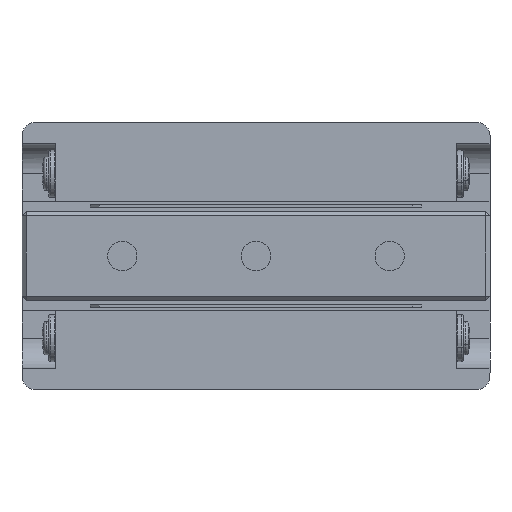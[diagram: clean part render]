
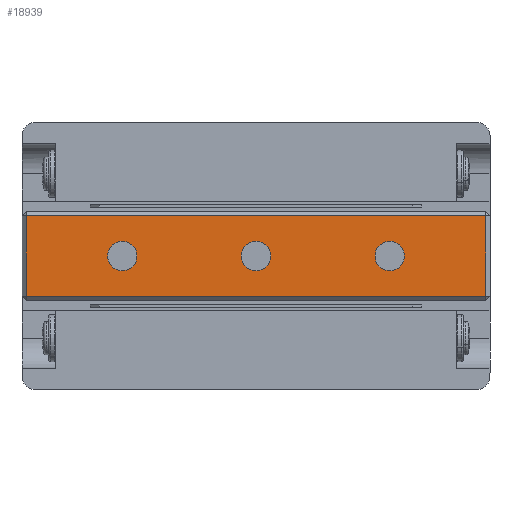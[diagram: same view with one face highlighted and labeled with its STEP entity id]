
A CAD part, front view. The second image highlights one B-rep face of the part: STEP entity #18939.
In plain terms, the highlighted planar face has unit normal (0, -1, 0).
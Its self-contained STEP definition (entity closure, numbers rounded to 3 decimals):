
#48 = ORIENTED_EDGE ( 'NONE', *, *, #11507, .T. ) ;
#113 = CIRCLE ( 'NONE', #20176, 1.1 ) ;
#362 = DIRECTION ( 'NONE',  ( 0., 0., 1. ) ) ;
#1007 = CARTESIAN_POINT ( 'NONE',  ( -11.192, 0.675, -0.001 ) ) ;
#1724 = FACE_BOUND ( 'NONE', #12717, .T. ) ;
#2073 = CIRCLE ( 'NONE', #23490, 1.1 ) ;
#2269 = EDGE_LOOP ( 'NONE', ( #15118, #18922 ) ) ;
#2406 = EDGE_CURVE ( 'NONE', #23046, #10715, #113, .T. ) ;
#2816 = CIRCLE ( 'NONE', #13578, 1.1 ) ;
#3169 = DIRECTION ( 'NONE',  ( 0., 0., 1. ) ) ;
#3342 = EDGE_CURVE ( 'NONE', #6639, #14536, #2073, .T. ) ;
#3347 = DIRECTION ( 'NONE',  ( 0., 0., 1. ) ) ;
#4466 = CARTESIAN_POINT ( 'NONE',  ( 16.008, 0.675, -3.001 ) ) ;
#4762 = CARTESIAN_POINT ( 'NONE',  ( -11.192, 0.675, 1.099 ) ) ;
#4875 = CARTESIAN_POINT ( 'NONE',  ( -11.192, 0.675, -0.001 ) ) ;
#5379 = DIRECTION ( 'NONE',  ( 1., 0., 0. ) ) ;
#5468 = PLANE ( 'NONE',  #19445 ) ;
#5494 = EDGE_CURVE ( 'NONE', #9361, #25709, #12134, .T. ) ;
#6639 = VERTEX_POINT ( 'NONE', #27167 ) ;
#6945 = DIRECTION ( 'NONE',  ( 0., 1., 0. ) ) ;
#7040 = DIRECTION ( 'NONE',  ( 0., 0., 1. ) ) ;
#7350 = DIRECTION ( 'NONE',  ( 0., 1., 0. ) ) ;
#7368 = VERTEX_POINT ( 'NONE', #4762 ) ;
#7399 = FACE_BOUND ( 'NONE', #2269, .T. ) ;
#7532 = CARTESIAN_POINT ( 'NONE',  ( -18.692, 0.675, -3.001 ) ) ;
#7613 = CARTESIAN_POINT ( 'NONE',  ( -18.692, 0.675, 3.299 ) ) ;
#7625 = CARTESIAN_POINT ( 'NONE',  ( 8.808, 0.675, -0.001 ) ) ;
#8482 = EDGE_CURVE ( 'NONE', #7368, #26995, #14710, .T. ) ;
#9032 = ORIENTED_EDGE ( 'NONE', *, *, #21000, .T. ) ;
#9112 = CARTESIAN_POINT ( 'NONE',  ( 8.808, 0.675, -1.101 ) ) ;
#9215 = VERTEX_POINT ( 'NONE', #10290 ) ;
#9291 = ORIENTED_EDGE ( 'NONE', *, *, #27838, .T. ) ;
#9361 = VERTEX_POINT ( 'NONE', #4466 ) ;
#9429 = ORIENTED_EDGE ( 'NONE', *, *, #17873, .T. ) ;
#10290 = CARTESIAN_POINT ( 'NONE',  ( -18.392, 0.675, -3.001 ) ) ;
#10612 = CARTESIAN_POINT ( 'NONE',  ( -1.192, 0.675, 1.099 ) ) ;
#10715 = VERTEX_POINT ( 'NONE', #16293 ) ;
#11507 = EDGE_CURVE ( 'NONE', #26995, #7368, #2816, .T. ) ;
#11956 = DIRECTION ( 'NONE',  ( 0., 0., 1. ) ) ;
#11958 = VECTOR ( 'NONE', #20852, 1000. ) ;
#12112 = CARTESIAN_POINT ( 'NONE',  ( -18.392, 0.675, 3.299 ) ) ;
#12134 = LINE ( 'NONE', #15394, #23692 ) ;
#12357 = VECTOR ( 'NONE', #5379, 1000. ) ;
#12717 = EDGE_LOOP ( 'NONE', ( #25177, #48 ) ) ;
#13125 = FACE_BOUND ( 'NONE', #17834, .T. ) ;
#13182 = ORIENTED_EDGE ( 'NONE', *, *, #2406, .T. ) ;
#13289 = AXIS2_PLACEMENT_3D ( 'NONE', #20331, #7350, #22510 ) ;
#13578 = AXIS2_PLACEMENT_3D ( 'NONE', #4875, #20008, #7040 ) ;
#14085 = CARTESIAN_POINT ( 'NONE',  ( -18.392, 0.675, 2.999 ) ) ;
#14536 = VERTEX_POINT ( 'NONE', #10612 ) ;
#14710 = CIRCLE ( 'NONE', #17521, 1.1 ) ;
#14831 = EDGE_CURVE ( 'NONE', #20525, #9215, #17732, .T. ) ;
#14938 = CIRCLE ( 'NONE', #22745, 1.1 ) ;
#15118 = ORIENTED_EDGE ( 'NONE', *, *, #16095, .T. ) ;
#15394 = CARTESIAN_POINT ( 'NONE',  ( 16.008, 0.675, 3.299 ) ) ;
#15486 = DIRECTION ( 'NONE',  ( 0., 1., 0. ) ) ;
#15557 = CIRCLE ( 'NONE', #13289, 1.1 ) ;
#16052 = DIRECTION ( 'NONE',  ( 0., 1., 0. ) ) ;
#16095 = EDGE_CURVE ( 'NONE', #14536, #6639, #14938, .T. ) ;
#16293 = CARTESIAN_POINT ( 'NONE',  ( 8.808, 0.675, 1.099 ) ) ;
#16839 = DIRECTION ( 'NONE',  ( -1., 0., 0. ) ) ;
#17378 = LINE ( 'NONE', #27645, #22487 ) ;
#17521 = AXIS2_PLACEMENT_3D ( 'NONE', #1007, #16052, #3169 ) ;
#17688 = ORIENTED_EDGE ( 'NONE', *, *, #14831, .T. ) ;
#17732 = LINE ( 'NONE', #12112, #11958 ) ;
#17834 = EDGE_LOOP ( 'NONE', ( #9429, #13182 ) ) ;
#17873 = EDGE_CURVE ( 'NONE', #10715, #23046, #15557, .T. ) ;
#18922 = ORIENTED_EDGE ( 'NONE', *, *, #3342, .T. ) ;
#18939 = ADVANCED_FACE ( 'NONE', ( #24710, #13125, #7399, #1724 ), #5468, .F. ) ;
#19445 = AXIS2_PLACEMENT_3D ( 'NONE', #7613, #24990, #11956 ) ;
#19913 = CARTESIAN_POINT ( 'NONE',  ( -1.192, 0.675, -0.001 ) ) ;
#20008 = DIRECTION ( 'NONE',  ( 0., 1., 0. ) ) ;
#20176 = AXIS2_PLACEMENT_3D ( 'NONE', #7625, #15486, #3347 ) ;
#20331 = CARTESIAN_POINT ( 'NONE',  ( 8.808, 0.675, -0.001 ) ) ;
#20525 = VERTEX_POINT ( 'NONE', #14085 ) ;
#20852 = DIRECTION ( 'NONE',  ( 0., 0., -1. ) ) ;
#20920 = CARTESIAN_POINT ( 'NONE',  ( -11.192, 0.675, -1.101 ) ) ;
#20989 = EDGE_LOOP ( 'NONE', ( #9291, #17688, #9032, #21935 ) ) ;
#21000 = EDGE_CURVE ( 'NONE', #9215, #9361, #23932, .T. ) ;
#21935 = ORIENTED_EDGE ( 'NONE', *, *, #5494, .T. ) ;
#22109 = DIRECTION ( 'NONE',  ( 0., 0., 1. ) ) ;
#22487 = VECTOR ( 'NONE', #16839, 1000. ) ;
#22510 = DIRECTION ( 'NONE',  ( 0., 0., 1. ) ) ;
#22745 = AXIS2_PLACEMENT_3D ( 'NONE', #19913, #6945, #22109 ) ;
#23046 = VERTEX_POINT ( 'NONE', #9112 ) ;
#23146 = CARTESIAN_POINT ( 'NONE',  ( -1.192, 0.675, -0.001 ) ) ;
#23171 = DIRECTION ( 'NONE',  ( 0., 1., 0. ) ) ;
#23237 = DIRECTION ( 'NONE',  ( 0., 0., 1. ) ) ;
#23490 = AXIS2_PLACEMENT_3D ( 'NONE', #23146, #23171, #23237 ) ;
#23692 = VECTOR ( 'NONE', #362, 1000. ) ;
#23932 = LINE ( 'NONE', #7532, #12357 ) ;
#24710 = FACE_OUTER_BOUND ( 'NONE', #20989, .T. ) ;
#24990 = DIRECTION ( 'NONE',  ( 0., 1., 0. ) ) ;
#25177 = ORIENTED_EDGE ( 'NONE', *, *, #8482, .T. ) ;
#25709 = VERTEX_POINT ( 'NONE', #25940 ) ;
#25940 = CARTESIAN_POINT ( 'NONE',  ( 16.008, 0.675, 2.999 ) ) ;
#26995 = VERTEX_POINT ( 'NONE', #20920 ) ;
#27167 = CARTESIAN_POINT ( 'NONE',  ( -1.192, 0.675, -1.101 ) ) ;
#27645 = CARTESIAN_POINT ( 'NONE',  ( -18.692, 0.675, 2.999 ) ) ;
#27838 = EDGE_CURVE ( 'NONE', #25709, #20525, #17378, .T. ) ;
